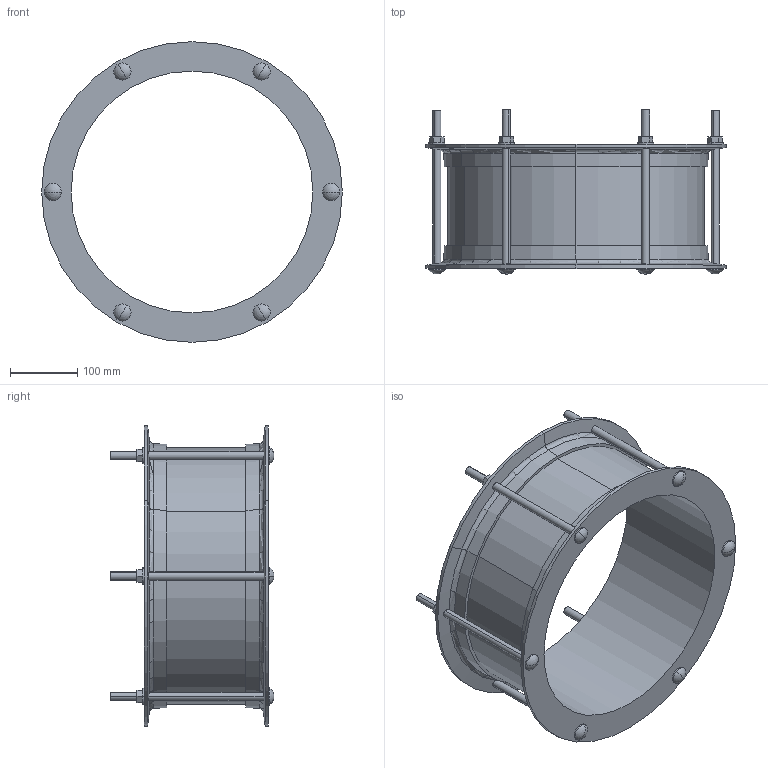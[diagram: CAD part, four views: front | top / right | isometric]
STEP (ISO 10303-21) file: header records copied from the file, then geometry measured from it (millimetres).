
FILE_DESCRIPTION((''),'2;1');
FILE_NAME('LO2_COUP_355','2018-12-05T',('mfairey'),('Glynwed Pipe Systems'),'CREO PARAMETRIC BY PTC INC, 2016130','CREO PARAMETRIC BY PTC INC, 2016130','');
FILE_SCHEMA(('CONFIG_CONTROL_DESIGN'));
Length unit declared in the file: millimetre
Products named in the file (1): LO2_COUP_355
Bounding box: 446.2 x 243.33 x 446.2 mm (x, y, z)
Volume: 3473804.5 mm3; surface area: 663625.7 mm2
Topology: 1 solids, 1 shells, 138 faces, 360 edges, 226 vertices
Faces by surface type: plane 58, cylinder 56, sphere 12, cone 8, torus 4
Entity records: 4702 total; most frequent: CARTESIAN_POINT 1288, DIRECTION 704, ORIENTED_EDGE 696, EDGE_CURVE 348, AXIS2_PLACEMENT_3D 266, VERTEX_POINT 226, VECTOR 172, LINE 172
